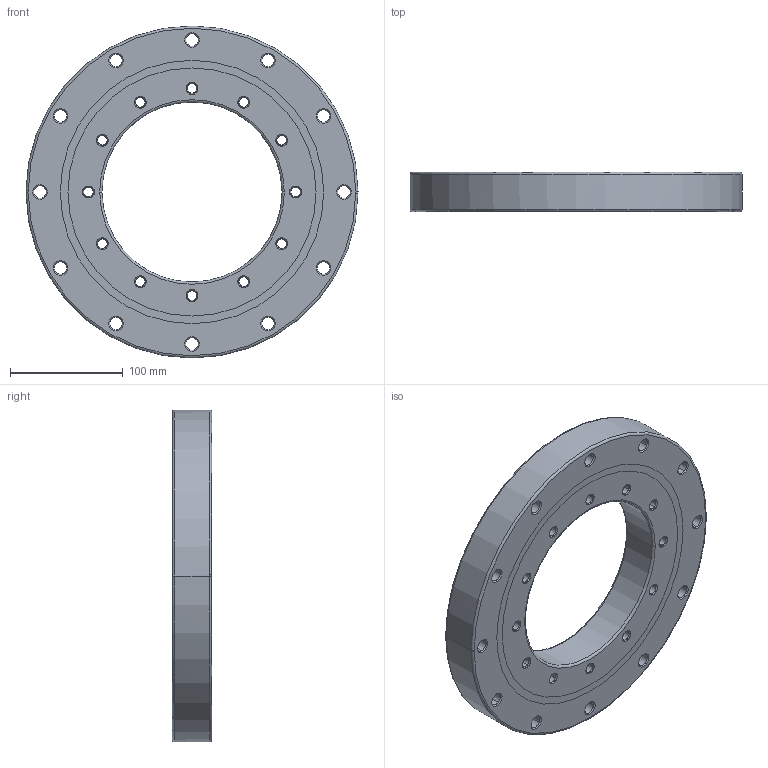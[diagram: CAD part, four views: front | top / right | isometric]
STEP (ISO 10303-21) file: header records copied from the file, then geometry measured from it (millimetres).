
FILE_DESCRIPTION(('no description'),'unknown implementation level');
FILE_NAME('CRBE16035A_63.stp',' ',('HIWIN GmbH'),('CADClick - KiM GmbH - www.kimweb.de'),'unknown preprocess','ACIS','unknown authorization');
FILE_SCHEMA(('automotive_design'));
Length unit declared in the file: millimetre
Products named in the file (28): CRBE16035A_1; CRBE16035A_2; CRBE16035A_3; CRBE16035A_4; CRBE16035A_5; CRBE16035A_6; CRBE16035A_7; CRBE16035A_8; CRBE16035A_9; CRBE16035A_10; CRBE16035A_11; CRBE16035A_12; CRBE16035A_13; CRBE16035A_14; CRBE16035A_15; CRBE16035A_16; CRBE16035A_17; CRBE16035A_18; CRBE16035A_19; CRBE16035A_20; CRBE16035A_21; CRBE16035A_22; CRBE16035A_23; CRBE16035A_24; CRBE16035A_25; CRBE16035A_26; CRBE16035A_27; CRBE16035A
Bounding box: 295 x 35 x 295 mm (x, y, z)
Volume: 1447226.6 mm3; surface area: 245001.5 mm2
Topology: 4 solids, 28 shells, 324 faces, 832 edges, 552 vertices
Faces by surface type: cone 176, cylinder 112, plane 20, torus 16
Entity records: 19394 total; most frequent: DIRECTION 2056, CARTESIAN_POINT 1736, ORIENTED_EDGE 1568, STYLED_ITEM 1544, PRESENTATION_STYLE_ASSIGNMENT 1544, COLOUR_RGB 1544, AXIS2_PLACEMENT_3D 872, EDGE_CURVE 832
